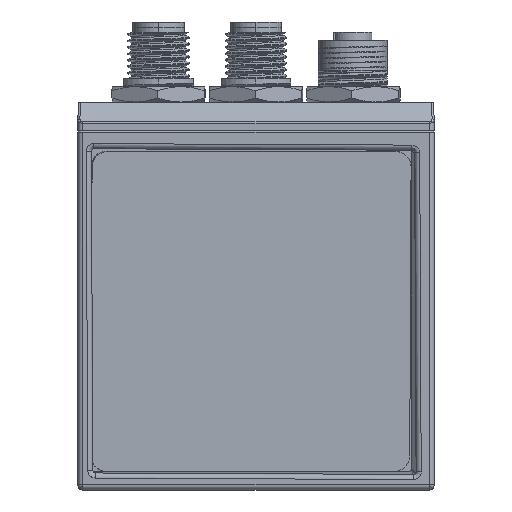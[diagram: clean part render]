
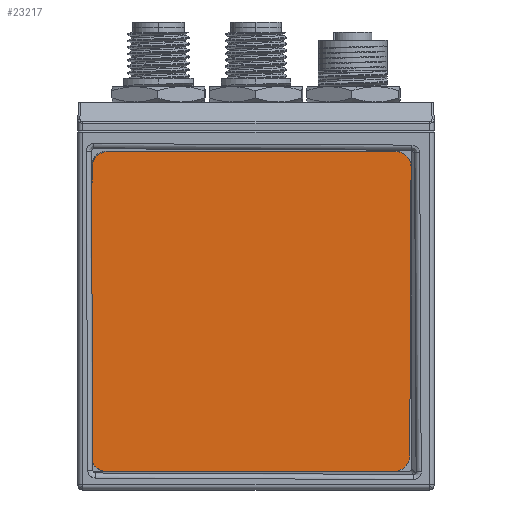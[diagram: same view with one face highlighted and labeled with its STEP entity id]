
A CAD part, front view. The second image highlights one B-rep face of the part: STEP entity #23217.
In plain terms, the highlighted planar face has unit normal (0.087, -0.995, -0.052).
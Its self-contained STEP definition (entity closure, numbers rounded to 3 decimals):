
#611 = ORIENTED_EDGE ( 'NONE', *, *, #63628, .F. ) ;
#1266 = ORIENTED_EDGE ( 'NONE', *, *, #37924, .T. ) ;
#1267 = ORIENTED_EDGE ( 'NONE', *, *, #62208, .F. ) ;
#1280 = LINE ( 'NONE', #10576, #44201 ) ;
#1367 = LINE ( 'NONE', #40513, #9430 ) ;
#6389 = AXIS2_PLACEMENT_3D ( 'NONE', #32024, #57157, #37280 ) ;
#6816 = CARTESIAN_POINT ( 'NONE',  ( 106.373, 5.351, -35.199 ) ) ;
#6956 = VERTEX_POINT ( 'NONE', #51033 ) ;
#7436 = DIRECTION ( 'NONE',  ( -0.996, -0.087, 0. ) ) ;
#7985 = EDGE_CURVE ( 'NONE', #54165, #56889, #56434, .T. ) ;
#8344 = AXIS2_PLACEMENT_3D ( 'NONE', #27794, #32778, #12846 ) ;
#9030 = ORIENTED_EDGE ( 'NONE', *, *, #34422, .F. ) ;
#9430 = VECTOR ( 'NONE', #10667, 1000. ) ;
#9573 = ORIENTED_EDGE ( 'NONE', *, *, #15582, .T. ) ;
#10576 = CARTESIAN_POINT ( 'NONE',  ( 75.305, 2.637, -35.341 ) ) ;
#10667 = DIRECTION ( 'NONE',  ( -0.005, 0.052, -0.999 ) ) ;
#10830 = CARTESIAN_POINT ( 'NONE',  ( 75.305, 2.481, -32.36 ) ) ;
#12846 = DIRECTION ( 'NONE',  ( 0.005, -0.052, 0.999 ) ) ;
#13506 = VERTEX_POINT ( 'NONE', #13960 ) ;
#13960 = CARTESIAN_POINT ( 'NONE',  ( 137.582, 6.609, -7.037 ) ) ;
#15582 = EDGE_CURVE ( 'NONE', #38908, #32357, #34766, .T. ) ;
#20021 = EDGE_CURVE ( 'NONE', #13506, #56889, #41238, .T. ) ;
#22868 = CARTESIAN_POINT ( 'NONE',  ( 134.337, 9.277, -63.36 ) ) ;
#23111 = AXIS2_PLACEMENT_3D ( 'NONE', #22868, #43108, #31901 ) ;
#23217 = ADVANCED_FACE ( 'NONE', ( #64852 ), #52554, .F. ) ;
#24095 = CARTESIAN_POINT ( 'NONE',  ( 137.325, 9.539, -63.36 ) ) ;
#27794 = CARTESIAN_POINT ( 'NONE',  ( 78.409, 1.425, -7.037 ) ) ;
#28217 = VERTEX_POINT ( 'NONE', #33239 ) ;
#29318 = ORIENTED_EDGE ( 'NONE', *, *, #20021, .T. ) ;
#30117 = VERTEX_POINT ( 'NONE', #10830 ) ;
#30943 = DIRECTION ( 'NONE',  ( 0.087, -0.995, -0.052 ) ) ;
#31901 = DIRECTION ( 'NONE',  ( 0.005, -0.052, 0.999 ) ) ;
#32012 = EDGE_LOOP ( 'NONE', ( #9030, #1266, #1267, #9573, #611, #29318, #51012, #53943, #39687 ) ) ;
#32024 = CARTESIAN_POINT ( 'NONE',  ( 78.152, 4.355, -63.36 ) ) ;
#32357 = VERTEX_POINT ( 'NONE', #24095 ) ;
#32711 = CIRCLE ( 'NONE', #8344, 3. ) ;
#32778 = DIRECTION ( 'NONE',  ( 0.087, -0.995, -0.052 ) ) ;
#33239 = CARTESIAN_POINT ( 'NONE',  ( 75.42, 1.163, -7.037 ) ) ;
#34422 = EDGE_CURVE ( 'NONE', #49164, #30117, #1280, .T. ) ;
#34766 = CIRCLE ( 'NONE', #23111, 3. ) ;
#36051 = CIRCLE ( 'NONE', #6389, 3. ) ;
#36992 = DIRECTION ( 'NONE',  ( -0.087, 0.995, 0.052 ) ) ;
#37280 = DIRECTION ( 'NONE',  ( 0.005, -0.052, 0.999 ) ) ;
#37595 = CARTESIAN_POINT ( 'NONE',  ( 75.15, 4.249, -66.356 ) ) ;
#37924 = EDGE_CURVE ( 'NONE', #49164, #6956, #36051, .T. ) ;
#38908 = VERTEX_POINT ( 'NONE', #58597 ) ;
#39319 = DIRECTION ( 'NONE',  ( 0.996, 0.087, 0. ) ) ;
#39411 = CARTESIAN_POINT ( 'NONE',  ( 75.15, 4.249, -66.356 ) ) ;
#39687 = ORIENTED_EDGE ( 'NONE', *, *, #60694, .F. ) ;
#40513 = CARTESIAN_POINT ( 'NONE',  ( 137.312, 9.695, -66.356 ) ) ;
#41238 = CIRCLE ( 'NONE', #50719, 3. ) ;
#43108 = DIRECTION ( 'NONE',  ( 0.087, -0.995, -0.052 ) ) ;
#44201 = VECTOR ( 'NONE', #45999, 1000. ) ;
#45999 = DIRECTION ( 'NONE',  ( 0., -0.052, 0.999 ) ) ;
#46212 = EDGE_CURVE ( 'NONE', #54165, #28217, #32711, .T. ) ;
#46594 = DIRECTION ( 'NONE',  ( 0.513, 0., 0.858 ) ) ;
#46654 = VECTOR ( 'NONE', #39319, 1000. ) ;
#46798 = CARTESIAN_POINT ( 'NONE',  ( 134.594, 6.348, -7.037 ) ) ;
#47709 = CARTESIAN_POINT ( 'NONE',  ( 134.607, 6.192, -4.041 ) ) ;
#47870 = LINE ( 'NONE', #37595, #52715 ) ;
#49164 = VERTEX_POINT ( 'NONE', #55428 ) ;
#50458 = VECTOR ( 'NONE', #60252, 1000. ) ;
#50719 = AXIS2_PLACEMENT_3D ( 'NONE', #46798, #30943, #51127 ) ;
#51012 = ORIENTED_EDGE ( 'NONE', *, *, #7985, .F. ) ;
#51033 = CARTESIAN_POINT ( 'NONE',  ( 78.138, 4.51, -66.356 ) ) ;
#51127 = DIRECTION ( 'NONE',  ( 0.005, -0.052, 0.999 ) ) ;
#52554 = PLANE ( 'NONE',  #62153 ) ;
#52715 = VECTOR ( 'NONE', #7436, 1000. ) ;
#53943 = ORIENTED_EDGE ( 'NONE', *, *, #46212, .T. ) ;
#54165 = VERTEX_POINT ( 'NONE', #56800 ) ;
#54315 = LINE ( 'NONE', #39411, #50458 ) ;
#55428 = CARTESIAN_POINT ( 'NONE',  ( 75.305, 4.154, -64.284 ) ) ;
#56434 = LINE ( 'NONE', #61753, #46654 ) ;
#56800 = CARTESIAN_POINT ( 'NONE',  ( 78.422, 1.27, -4.041 ) ) ;
#56889 = VERTEX_POINT ( 'NONE', #47709 ) ;
#57157 = DIRECTION ( 'NONE',  ( 0.087, -0.995, -0.052 ) ) ;
#58597 = CARTESIAN_POINT ( 'NONE',  ( 134.323, 9.433, -66.356 ) ) ;
#60252 = DIRECTION ( 'NONE',  ( 0.005, -0.052, 0.999 ) ) ;
#60694 = EDGE_CURVE ( 'NONE', #30117, #28217, #54315, .T. ) ;
#61753 = CARTESIAN_POINT ( 'NONE',  ( 75.434, 1.008, -4.041 ) ) ;
#62153 = AXIS2_PLACEMENT_3D ( 'NONE', #6816, #36992, #46594 ) ;
#62208 = EDGE_CURVE ( 'NONE', #38908, #6956, #47870, .T. ) ;
#63628 = EDGE_CURVE ( 'NONE', #13506, #32357, #1367, .T. ) ;
#64852 = FACE_OUTER_BOUND ( 'NONE', #32012, .T. ) ;
